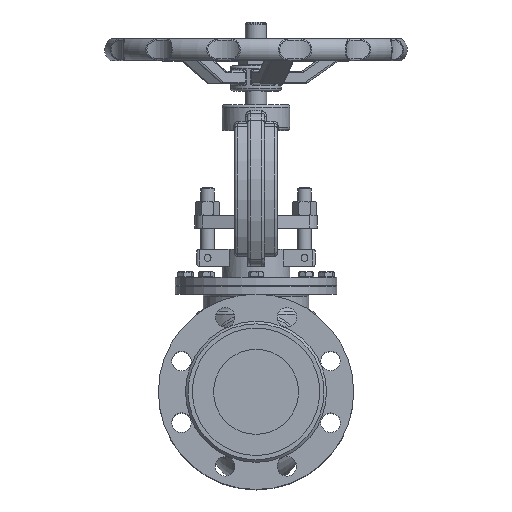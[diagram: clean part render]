
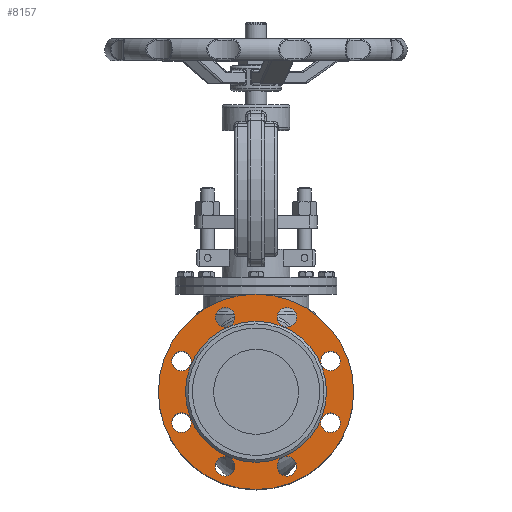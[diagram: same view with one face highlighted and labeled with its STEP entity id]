
A CAD part, top view. The second image highlights one B-rep face of the part: STEP entity #8157.
In plain terms, the highlighted planar face has unit normal (0, 0, 1).
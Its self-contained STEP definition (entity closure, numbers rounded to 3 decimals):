
#8157=ADVANCED_FACE('',(#18802,#18804,#18806,#18808,#18810,#18812,#18814,#18816,
#18818,#18820),#18822,.F.);
#18802=FACE_BOUND('',#18803,.T.);
#18803=EDGE_LOOP('',(#26378));
#18804=FACE_BOUND('',#18805,.T.);
#18805=EDGE_LOOP('',(#26379));
#18806=FACE_BOUND('',#18807,.T.);
#18807=EDGE_LOOP('',(#26380));
#18808=FACE_BOUND('',#18809,.T.);
#18809=EDGE_LOOP('',(#26381));
#18810=FACE_BOUND('',#18811,.T.);
#18811=EDGE_LOOP('',(#26382));
#18812=FACE_BOUND('',#18813,.T.);
#18813=EDGE_LOOP('',(#26383));
#18814=FACE_BOUND('',#18815,.T.);
#18815=EDGE_LOOP('',(#26384));
#18816=FACE_BOUND('',#18817,.T.);
#18817=EDGE_LOOP('',(#26385));
#18818=FACE_BOUND('',#18819,.T.);
#18819=EDGE_LOOP('',(#26386));
#18820=FACE_BOUND('',#18821,.T.);
#18821=EDGE_LOOP('',(#26387));
#18822=PLANE('',#18823);
#18823=AXIS2_PLACEMENT_3D('',#18824,#18825,#18826);
#18824=CARTESIAN_POINT('',(0.,0.,172.));
#18825=DIRECTION('',(0.,0.,-1.));
#18826=DIRECTION('',(0.,1.,0.));
#26378=ORIENTED_EDGE('',*,*,#29557,.T.);
#26379=ORIENTED_EDGE('',*,*,#29558,.T.);
#26380=ORIENTED_EDGE('',*,*,#29559,.T.);
#26381=ORIENTED_EDGE('',*,*,#29560,.T.);
#26382=ORIENTED_EDGE('',*,*,#29561,.T.);
#26383=ORIENTED_EDGE('',*,*,#29736,.F.);
#26384=ORIENTED_EDGE('',*,*,#29562,.T.);
#26385=ORIENTED_EDGE('',*,*,#29563,.T.);
#26386=ORIENTED_EDGE('',*,*,#29564,.T.);
#26387=ORIENTED_EDGE('',*,*,#29565,.T.);
#29557=EDGE_CURVE('',#33497,#33497,#33498,.T.);
#29558=EDGE_CURVE('',#33499,#33499,#33500,.T.);
#29559=EDGE_CURVE('',#33501,#33501,#33502,.T.);
#29560=EDGE_CURVE('',#33503,#33503,#33504,.T.);
#29561=EDGE_CURVE('',#33505,#33505,#33506,.T.);
#29562=EDGE_CURVE('',#33507,#33507,#33508,.T.);
#29563=EDGE_CURVE('',#33509,#33509,#33510,.T.);
#29564=EDGE_CURVE('',#33511,#33511,#33512,.T.);
#29565=EDGE_CURVE('',#33513,#33513,#33514,.T.);
#29736=EDGE_CURVE('',#33799,#33799,#33800,.T.);
#33497=VERTEX_POINT('',#62965);
#33498=CIRCLE('',#62966,115.);
#33499=VERTEX_POINT('',#62970);
#33500=CIRCLE('',#62971,11.5);
#33501=VERTEX_POINT('',#62975);
#33502=CIRCLE('',#62976,11.5);
#33503=VERTEX_POINT('',#62980);
#33504=CIRCLE('',#62981,11.5);
#33505=VERTEX_POINT('',#62985);
#33506=CIRCLE('',#62986,11.5);
#33507=VERTEX_POINT('',#62990);
#33508=CIRCLE('',#62991,11.5);
#33509=VERTEX_POINT('',#62995);
#33510=CIRCLE('',#62996,11.5);
#33511=VERTEX_POINT('',#63000);
#33512=CIRCLE('',#63001,11.5);
#33513=VERTEX_POINT('',#63005);
#33514=CIRCLE('',#63006,11.5);
#33799=VERTEX_POINT('',#65017);
#33800=CIRCLE('',#65018,83.);
#62965=CARTESIAN_POINT('',(0.,115.,172.));
#62966=AXIS2_PLACEMENT_3D('',#62967,#62968,#62969);
#62967=CARTESIAN_POINT('',(0.,0.,172.));
#62968=DIRECTION('',(0.,0.,1.));
#62969=DIRECTION('',(0.,1.,0.));
#62970=CARTESIAN_POINT('',(79.637,44.487,172.));
#62971=AXIS2_PLACEMENT_3D('',#62972,#62973,#62974);
#62972=CARTESIAN_POINT('',(87.769,36.355,172.));
#62973=DIRECTION('',(0.,0.,-1.));
#62974=DIRECTION('',(-0.707,0.707,0.));
#62975=CARTESIAN_POINT('',(44.487,-79.637,172.));
#62976=AXIS2_PLACEMENT_3D('',#62977,#62978,#62979);
#62977=CARTESIAN_POINT('',(36.355,-87.769,172.));
#62978=DIRECTION('',(0.,0.,-1.));
#62979=DIRECTION('',(0.707,0.707,0.));
#62980=CARTESIAN_POINT('',(-79.637,-44.487,172.));
#62981=AXIS2_PLACEMENT_3D('',#62982,#62983,#62984);
#62982=CARTESIAN_POINT('',(-87.769,-36.355,172.));
#62983=DIRECTION('',(0.,0.,-1.));
#62984=DIRECTION('',(0.707,-0.707,0.));
#62985=CARTESIAN_POINT('',(-44.487,79.637,172.));
#62986=AXIS2_PLACEMENT_3D('',#62987,#62988,#62989);
#62987=CARTESIAN_POINT('',(-36.355,87.769,172.));
#62988=DIRECTION('',(0.,0.,-1.));
#62989=DIRECTION('',(-0.707,-0.707,0.));
#62990=CARTESIAN_POINT('',(24.855,87.769,172.));
#62991=AXIS2_PLACEMENT_3D('',#62992,#62993,#62994);
#62992=CARTESIAN_POINT('',(36.355,87.769,172.));
#62993=DIRECTION('',(0.,0.,-1.));
#62994=DIRECTION('',(-1.,0.,0.));
#62995=CARTESIAN_POINT('',(-87.769,24.855,172.));
#62996=AXIS2_PLACEMENT_3D('',#62997,#62998,#62999);
#62997=CARTESIAN_POINT('',(-87.769,36.355,172.));
#62998=DIRECTION('',(0.,0.,-1.));
#62999=DIRECTION('',(0.,-1.,0.));
#63000=CARTESIAN_POINT('',(-24.855,-87.769,172.));
#63001=AXIS2_PLACEMENT_3D('',#63002,#63003,#63004);
#63002=CARTESIAN_POINT('',(-36.355,-87.769,172.));
#63003=DIRECTION('',(0.,0.,-1.));
#63004=DIRECTION('',(1.,0.,0.));
#63005=CARTESIAN_POINT('',(87.769,-24.855,172.));
#63006=AXIS2_PLACEMENT_3D('',#63007,#63008,#63009);
#63007=CARTESIAN_POINT('',(87.769,-36.355,172.));
#63008=DIRECTION('',(0.,0.,-1.));
#63009=DIRECTION('',(0.,1.,0.));
#65017=CARTESIAN_POINT('',(0.,83.,172.));
#65018=AXIS2_PLACEMENT_3D('',#65019,#65020,#65021);
#65019=CARTESIAN_POINT('',(0.,0.,172.));
#65020=DIRECTION('',(0.,0.,1.));
#65021=DIRECTION('',(0.,1.,0.));
